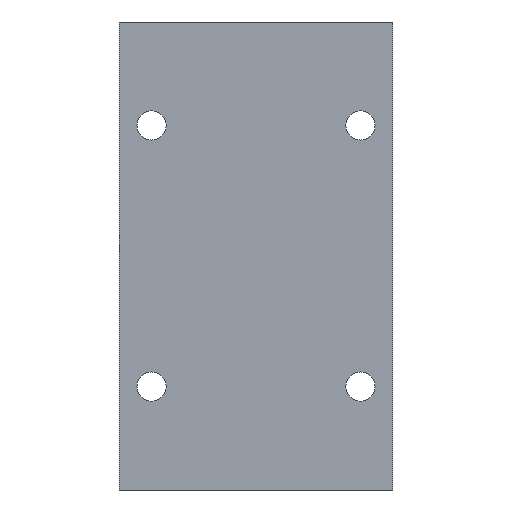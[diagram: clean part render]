
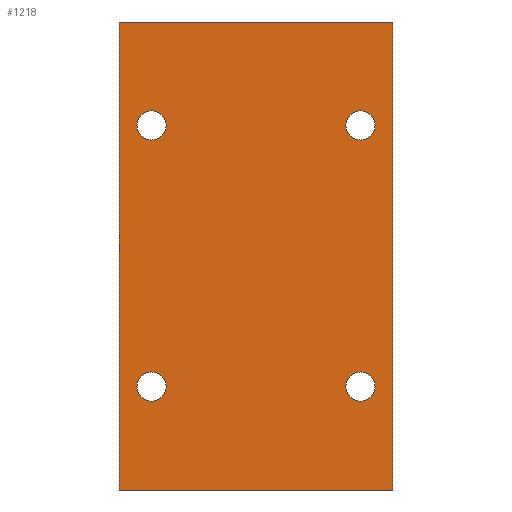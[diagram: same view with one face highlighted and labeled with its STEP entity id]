
A CAD part, front view. The second image highlights one B-rep face of the part: STEP entity #1218.
In plain terms, the highlighted planar face has unit normal (0, -1, 0).
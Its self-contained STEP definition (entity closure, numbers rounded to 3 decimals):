
#23 = ORIENTED_EDGE ( 'NONE', *, *, #1654, .T. ) ;
#34 = ORIENTED_EDGE ( 'NONE', *, *, #1451, .F. ) ;
#36 = VERTEX_POINT ( 'NONE', #330 ) ;
#39 = DIRECTION ( 'NONE',  ( 0., 0., -1. ) ) ;
#42 = EDGE_CURVE ( 'NONE', #855, #1079, #1928, .T. ) ;
#55 = CARTESIAN_POINT ( 'NONE',  ( 65.5, -52.5, -112. ) ) ;
#89 = VECTOR ( 'NONE', #1487, 1000. ) ;
#114 = EDGE_LOOP ( 'NONE', ( #23, #1222, #1762, #1098 ) ) ;
#120 = AXIS2_PLACEMENT_3D ( 'NONE', #266, #1555, #276 ) ;
#127 = VERTEX_POINT ( 'NONE', #1187 ) ;
#141 = CARTESIAN_POINT ( 'NONE',  ( -65.5, -52.5, 112. ) ) ;
#148 = ORIENTED_EDGE ( 'NONE', *, *, #360, .F. ) ;
#160 = AXIS2_PLACEMENT_3D ( 'NONE', #2082, #968, #1238 ) ;
#177 = DIRECTION ( 'NONE',  ( 1., 0., 0. ) ) ;
#179 = LINE ( 'NONE', #824, #89 ) ;
#183 = CARTESIAN_POINT ( 'NONE',  ( 50., -52.5, -62.5 ) ) ;
#189 = CARTESIAN_POINT ( 'NONE',  ( 50., -52.5, -69.5 ) ) ;
#194 = VERTEX_POINT ( 'NONE', #1845 ) ;
#197 = CIRCLE ( 'NONE', #1988, 7. ) ;
#213 = DIRECTION ( 'NONE',  ( 0., 0., -1. ) ) ;
#266 = CARTESIAN_POINT ( 'NONE',  ( -65.5, -52.5, 112. ) ) ;
#276 = DIRECTION ( 'NONE',  ( 0., 0., 1. ) ) ;
#288 = CARTESIAN_POINT ( 'NONE',  ( -50., -52.5, 62.5 ) ) ;
#330 = CARTESIAN_POINT ( 'NONE',  ( -50., -52.5, -69.5 ) ) ;
#341 = DIRECTION ( 'NONE',  ( 0., -1., 0. ) ) ;
#348 = EDGE_CURVE ( 'NONE', #1079, #855, #2001, .T. ) ;
#360 = EDGE_CURVE ( 'NONE', #1977, #777, #1693, .T. ) ;
#366 = CARTESIAN_POINT ( 'NONE',  ( 50., -52.5, 62.5 ) ) ;
#368 = AXIS2_PLACEMENT_3D ( 'NONE', #366, #1000, #1298 ) ;
#379 = CARTESIAN_POINT ( 'NONE',  ( 50., -52.5, -62.5 ) ) ;
#390 = CARTESIAN_POINT ( 'NONE',  ( 65.5, -52.5, 112. ) ) ;
#426 = FACE_BOUND ( 'NONE', #810, .T. ) ;
#461 = ORIENTED_EDGE ( 'NONE', *, *, #1791, .F. ) ;
#476 = CARTESIAN_POINT ( 'NONE',  ( 50., -52.5, 62.5 ) ) ;
#507 = CARTESIAN_POINT ( 'NONE',  ( 50., -52.5, 69.5 ) ) ;
#578 = DIRECTION ( 'NONE',  ( 0., 0., -1. ) ) ;
#640 = DIRECTION ( 'NONE',  ( 0., -1., 0. ) ) ;
#647 = LINE ( 'NONE', #831, #1134 ) ;
#680 = EDGE_CURVE ( 'NONE', #1258, #194, #1608, .T. ) ;
#683 = AXIS2_PLACEMENT_3D ( 'NONE', #1117, #640, #1963 ) ;
#760 = CARTESIAN_POINT ( 'NONE',  ( -50., -52.5, -62.5 ) ) ;
#770 = DIRECTION ( 'NONE',  ( 0., -1., 0. ) ) ;
#777 = VERTEX_POINT ( 'NONE', #877 ) ;
#793 = DIRECTION ( 'NONE',  ( 0., -1., 0. ) ) ;
#804 = CIRCLE ( 'NONE', #1983, 7. ) ;
#810 = EDGE_LOOP ( 'NONE', ( #1493, #148 ) ) ;
#824 = CARTESIAN_POINT ( 'NONE',  ( -65.5, -52.5, -112. ) ) ;
#831 = CARTESIAN_POINT ( 'NONE',  ( -65.5, -52.5, 112. ) ) ;
#855 = VERTEX_POINT ( 'NONE', #1048 ) ;
#877 = CARTESIAN_POINT ( 'NONE',  ( -50., -52.5, 55.5 ) ) ;
#942 = DIRECTION ( 'NONE',  ( 0., -1., 0. ) ) ;
#959 = DIRECTION ( 'NONE',  ( 0., 0., -1. ) ) ;
#968 = DIRECTION ( 'NONE',  ( 0., -1., 0. ) ) ;
#990 = LINE ( 'NONE', #390, #1371 ) ;
#999 = VECTOR ( 'NONE', #1951, 1000. ) ;
#1000 = DIRECTION ( 'NONE',  ( 0., -1., 0. ) ) ;
#1029 = ORIENTED_EDGE ( 'NONE', *, *, #1049, .F. ) ;
#1042 = VERTEX_POINT ( 'NONE', #507 ) ;
#1048 = CARTESIAN_POINT ( 'NONE',  ( 50., -52.5, -55.5 ) ) ;
#1049 = EDGE_CURVE ( 'NONE', #1042, #1886, #1846, .T. ) ;
#1079 = VERTEX_POINT ( 'NONE', #189 ) ;
#1083 = PLANE ( 'NONE',  #120 ) ;
#1092 = FACE_BOUND ( 'NONE', #1149, .T. ) ;
#1098 = ORIENTED_EDGE ( 'NONE', *, *, #680, .T. ) ;
#1103 = DIRECTION ( 'NONE',  ( 0., 0., -1. ) ) ;
#1117 = CARTESIAN_POINT ( 'NONE',  ( -50., -52.5, 62.5 ) ) ;
#1128 = VERTEX_POINT ( 'NONE', #55 ) ;
#1134 = VECTOR ( 'NONE', #177, 1000. ) ;
#1141 = CARTESIAN_POINT ( 'NONE',  ( -65.5, -52.5, 112. ) ) ;
#1149 = EDGE_LOOP ( 'NONE', ( #461, #1029 ) ) ;
#1156 = EDGE_LOOP ( 'NONE', ( #1809, #1179 ) ) ;
#1179 = ORIENTED_EDGE ( 'NONE', *, *, #42, .F. ) ;
#1187 = CARTESIAN_POINT ( 'NONE',  ( -50., -52.5, -55.5 ) ) ;
#1198 = AXIS2_PLACEMENT_3D ( 'NONE', #760, #942, #578 ) ;
#1218 = ADVANCED_FACE ( 'NONE', ( #426, #1576, #1092, #1373, #1563 ), #1083, .F. ) ;
#1222 = ORIENTED_EDGE ( 'NONE', *, *, #1580, .F. ) ;
#1238 = DIRECTION ( 'NONE',  ( 0., 0., -1. ) ) ;
#1253 = EDGE_CURVE ( 'NONE', #127, #36, #1607, .T. ) ;
#1258 = VERTEX_POINT ( 'NONE', #141 ) ;
#1264 = CARTESIAN_POINT ( 'NONE',  ( 50., -52.5, 55.5 ) ) ;
#1298 = DIRECTION ( 'NONE',  ( 0., 0., -1. ) ) ;
#1308 = DIRECTION ( 'NONE',  ( 0., -1., 0. ) ) ;
#1321 = EDGE_CURVE ( 'NONE', #777, #1977, #804, .T. ) ;
#1338 = EDGE_CURVE ( 'NONE', #1258, #1727, #647, .T. ) ;
#1371 = VECTOR ( 'NONE', #213, 1000. ) ;
#1373 = FACE_BOUND ( 'NONE', #1618, .T. ) ;
#1420 = DIRECTION ( 'NONE',  ( 0., 0., -1. ) ) ;
#1451 = EDGE_CURVE ( 'NONE', #36, #127, #1985, .T. ) ;
#1487 = DIRECTION ( 'NONE',  ( 1., 0., 0. ) ) ;
#1493 = ORIENTED_EDGE ( 'NONE', *, *, #1321, .F. ) ;
#1555 = DIRECTION ( 'NONE',  ( 0., 1., 0. ) ) ;
#1563 = FACE_BOUND ( 'NONE', #1156, .T. ) ;
#1576 = FACE_OUTER_BOUND ( 'NONE', #114, .T. ) ;
#1580 = EDGE_CURVE ( 'NONE', #1727, #1128, #990, .T. ) ;
#1604 = ORIENTED_EDGE ( 'NONE', *, *, #1253, .F. ) ;
#1607 = CIRCLE ( 'NONE', #1198, 7. ) ;
#1608 = LINE ( 'NONE', #1141, #999 ) ;
#1618 = EDGE_LOOP ( 'NONE', ( #34, #1604 ) ) ;
#1654 = EDGE_CURVE ( 'NONE', #194, #1128, #179, .T. ) ;
#1693 = CIRCLE ( 'NONE', #683, 7. ) ;
#1727 = VERTEX_POINT ( 'NONE', #2030 ) ;
#1762 = ORIENTED_EDGE ( 'NONE', *, *, #1338, .F. ) ;
#1791 = EDGE_CURVE ( 'NONE', #1886, #1042, #197, .T. ) ;
#1809 = ORIENTED_EDGE ( 'NONE', *, *, #348, .F. ) ;
#1845 = CARTESIAN_POINT ( 'NONE',  ( -65.5, -52.5, -112. ) ) ;
#1846 = CIRCLE ( 'NONE', #368, 7. ) ;
#1886 = VERTEX_POINT ( 'NONE', #1264 ) ;
#1896 = AXIS2_PLACEMENT_3D ( 'NONE', #183, #341, #959 ) ;
#1928 = CIRCLE ( 'NONE', #1896, 7. ) ;
#1951 = DIRECTION ( 'NONE',  ( 0., 0., -1. ) ) ;
#1963 = DIRECTION ( 'NONE',  ( 0., 0., -1. ) ) ;
#1977 = VERTEX_POINT ( 'NONE', #2100 ) ;
#1983 = AXIS2_PLACEMENT_3D ( 'NONE', #288, #770, #1103 ) ;
#1985 = CIRCLE ( 'NONE', #160, 7. ) ;
#1988 = AXIS2_PLACEMENT_3D ( 'NONE', #476, #793, #1420 ) ;
#2001 = CIRCLE ( 'NONE', #2065, 7. ) ;
#2030 = CARTESIAN_POINT ( 'NONE',  ( 65.5, -52.5, 112. ) ) ;
#2065 = AXIS2_PLACEMENT_3D ( 'NONE', #379, #1308, #39 ) ;
#2082 = CARTESIAN_POINT ( 'NONE',  ( -50., -52.5, -62.5 ) ) ;
#2100 = CARTESIAN_POINT ( 'NONE',  ( -50., -52.5, 69.5 ) ) ;
